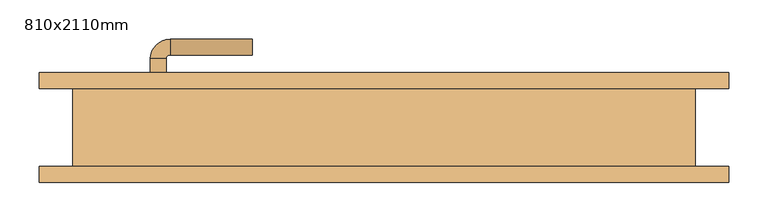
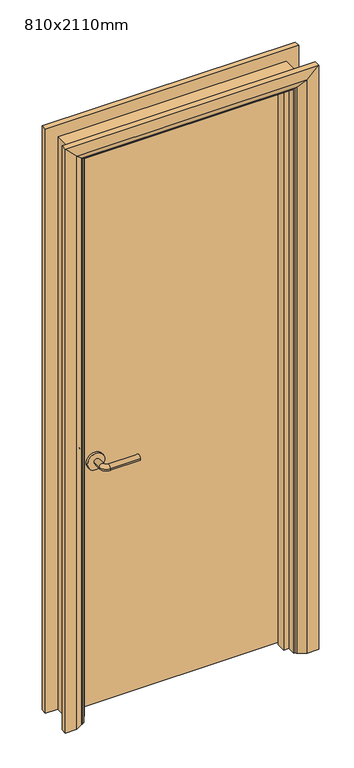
"""IFC4 building model written with IfcOpenShell, lengths in millimetres: door geometry, BIMHealth-Single_Door_841mm_Wide-LOD2A-v1 : 810x2110mm."""

from ifc_helpers import new_model, si_unit, point, frame, frame_2d, origin, place, context, project, spatial, polyline, circle_curve, ellipse_curve, trimmed, segment, composite_curve, outline, extrude, faceted_brep, source, transform, mapped, element, save
from ifc_brep_helpers import plane_surface, cylinder_surface, revolved_surface, advanced_brep


def door_810x2110mm_af5921ef(model_context):
    return source(origin(), model_context, "Body", "SolidModel", [
        advanced_brep(
        [(-298.0, 4.0, 900.0), (-278.0, 4.0, 900.0), (-278.0, -26.0, 900.0), (-298.0, -26.0, 900.0), (-273.0, -31.0, 900.0), (-273.0, -51.0, 900.0), (-168.0, -51.0, 900.0), (-168.0, -31.0, 900.0)],
        [
            (0, 1, circle_curve(frame((-288.0, 4.0, 900.0), z_axis=(0.0, 1.0, 0.0), x_axis=(1.0, 0.0, 0.0)), 10.0)),
            (1, 0, circle_curve(frame((-288.0, 4.0, 900.0), z_axis=(0.0, 1.0, 0.0), x_axis=(1.0, 0.0, 0.0)), 10.0)),
            (1, 2),
            (2, 3, circle_curve(frame((-288.0, -26.0, 900.0), z_axis=(0.0, 1.0, 0.0), x_axis=(1.0, 0.0, 0.0)), 10.0)),
            (3, 0),
            (3, 2, circle_curve(frame((-288.0, -26.0, 900.0), z_axis=(0.0, 1.0, 0.0), x_axis=(1.0, 0.0, 0.0)), 10.0)),
            (4, 5, circle_curve(frame((-273.0, -41.0, 900.0), z_axis=(-1.0, 0.0, 0.0), x_axis=(0.0, 1.0, 0.0)), 10.0)),
            (5, 3, circle_curve(frame((-273.0, -26.0, 900.0), z_axis=(0.0, 0.0, -1.0), x_axis=(-1.0, 0.0, 0.0)), 25.0)),
            (2, 4, circle_curve(frame((-273.0, -26.0, 900.0), z_axis=(0.0, 0.0, 1.0), x_axis=(-1.0, 0.0, 0.0)), 5.0)),
            (5, 4, circle_curve(frame((-273.0, -41.0, 900.0), z_axis=(-1.0, 0.0, 0.0), x_axis=(0.0, 1.0, 0.0)), 10.0)),
            (6, 7, circle_curve(frame((-168.0, -41.0, 900.0), z_axis=(1.0, 0.0, 0.0), x_axis=(0.0, 1.0, 0.0)), 10.0)),
            (7, 6, circle_curve(frame((-168.0, -41.0, 900.0), z_axis=(1.0, 0.0, 0.0), x_axis=(0.0, 1.0, 0.0)), 10.0)),
            (4, 7),
            (6, 5),
        ],
        [
            plane_surface(frame((-288.0, 4.0, 900.0), z_axis=(0.0, 1.0, 0.0), x_axis=(0.0, 0.0, 1.0))),
            cylinder_surface(frame((-288.0, 4.0, 900.0), z_axis=(0.0, 1.0, 0.0), x_axis=(1.0, 0.0, 0.0)), 10.0),
            revolved_surface(trimmed(ellipse_curve(frame((-288.0, -26.0, 900.0), z_axis=(0.0, -1.0, 0.0), x_axis=(1.0, 0.0, 0.0)), 10.0, 10.0), [point((-298.0, -26.0, 900.0))], [point((-278.0, -26.0, 900.0))], True, "CARTESIAN"), (-273.0, -26.0, 900.0), (0.0, 0.0, -1.0)),
            revolved_surface(trimmed(ellipse_curve(frame((-288.0, -26.0, 900.0), z_axis=(0.0, -1.0, 0.0), x_axis=(1.0, 0.0, 0.0)), 10.0, 10.0), [point((-278.0, -26.0, 900.0))], [point((-298.0, -26.0, 900.0))], True, "CARTESIAN"), (-273.0, -26.0, 900.0), (0.0, 0.0, -1.0)),
            plane_surface(frame((-168.0, -41.0, 900.0), z_axis=(1.0, 0.0, 0.0), x_axis=(0.0, 0.0, 1.0))),
            cylinder_surface(frame((-273.0, -41.0, 900.0), z_axis=(-1.0, 0.0, 0.0), x_axis=(0.0, 1.0, 0.0)), 10.0),
        ],
        [
            (0, [[1, 2]]),
            (1, [[3, 4, 5, -2]]),
            (1, [[-5, 6, -3, -1]]),
            (2, [[7, 8, -4, 9]]),
            (3, [[10, -9, -6, -8]]),
            (4, [[11, 12]]),
            (5, [[13, -11, 14, -7]]),
            (5, [[-14, -12, -13, -10]]),
        ],
    ),
        extrude(outline(composite_curve([segment(trimmed(circle_curve(frame_2d((900.0, -290.5)), 30.0), [point((900.0, -320.5))], [point((900.0, -260.5))], False, "CARTESIAN"), True, "CONTINUOUS"), segment(trimmed(circle_curve(frame_2d((900.0, -290.5)), 30.0), [point((900.0, -260.5))], [point((900.0, -320.5))], False, "CARTESIAN"), True, "CONTINUOUS")], self_intersect=False)), frame((0.0, 4.0, 0.0), z_axis=(0.0, 1.0, 0.0), x_axis=(0.0, 0.0, 1.0)), (0.0, 0.0, 1.0), 8.0),
        advanced_brep(
        [(-298.0, 58.0, 900.0), (-278.0, 58.0, 900.0), (-298.0, 88.0, 900.0), (-278.0, 88.0, 900.0), (-273.0, 93.0, 900.0), (-273.0, 113.0, 900.0), (-168.0, 113.0, 900.0), (-168.0, 93.0, 900.0)],
        [
            (0, 1, circle_curve(frame((-288.0, 58.0, 900.0), z_axis=(0.0, -1.0, 0.0), x_axis=(1.0, 0.0, 0.0)), 10.0)),
            (1, 0, circle_curve(frame((-288.0, 58.0, 900.0), z_axis=(0.0, -1.0, 0.0), x_axis=(1.0, 0.0, 0.0)), 10.0)),
            (0, 2),
            (2, 3, circle_curve(frame((-288.0, 88.0, 900.0), z_axis=(0.0, -1.0, 0.0), x_axis=(1.0, 0.0, 0.0)), 10.0)),
            (3, 1),
            (3, 2, circle_curve(frame((-288.0, 88.0, 900.0), z_axis=(0.0, -1.0, 0.0), x_axis=(1.0, 0.0, 0.0)), 10.0)),
            (4, 3, circle_curve(frame((-273.0, 88.0, 900.0), z_axis=(0.0, 0.0, 1.0), x_axis=(-1.0, 0.0, 0.0)), 5.0)),
            (2, 5, circle_curve(frame((-273.0, 88.0, 900.0), z_axis=(0.0, 0.0, -1.0), x_axis=(-1.0, 0.0, 0.0)), 25.0)),
            (5, 4, circle_curve(frame((-273.0, 103.0, 900.0), z_axis=(-1.0, 0.0, 0.0), x_axis=(0.0, -1.0, 0.0)), 10.0)),
            (4, 5, circle_curve(frame((-273.0, 103.0, 900.0), z_axis=(-1.0, 0.0, 0.0), x_axis=(0.0, -1.0, 0.0)), 10.0)),
            (6, 7, circle_curve(frame((-168.0, 103.0, 900.0), z_axis=(1.0, 0.0, 0.0), x_axis=(0.0, -1.0, 0.0)), 10.0)),
            (7, 6, circle_curve(frame((-168.0, 103.0, 900.0), z_axis=(1.0, 0.0, 0.0), x_axis=(0.0, -1.0, 0.0)), 10.0)),
            (5, 6),
            (7, 4),
        ],
        [
            plane_surface(frame((-288.0, 58.0, 900.0), z_axis=(0.0, -1.0, 0.0), x_axis=(0.0, 0.0, 1.0))),
            cylinder_surface(frame((-288.0, 58.0, 900.0), z_axis=(0.0, -1.0, 0.0), x_axis=(1.0, 0.0, 0.0)), 10.0),
            revolved_surface(trimmed(ellipse_curve(frame((-288.0, 88.0, 900.0), z_axis=(0.0, -1.0, 0.0), x_axis=(1.0, 0.0, 0.0)), 10.0, 10.0), [point((-298.0, 88.0, 900.0))], [point((-278.0, 88.0, 900.0))], True, "CARTESIAN"), (-273.0, 88.0, 900.0), (0.0, 0.0, -1.0)),
            revolved_surface(trimmed(ellipse_curve(frame((-288.0, 88.0, 900.0), z_axis=(0.0, -1.0, 0.0), x_axis=(1.0, 0.0, 0.0)), 10.0, 10.0), [point((-278.0, 88.0, 900.0))], [point((-298.0, 88.0, 900.0))], True, "CARTESIAN"), (-273.0, 88.0, 900.0), (0.0, 0.0, -1.0)),
            plane_surface(frame((-168.0, 103.0, 900.0), z_axis=(1.0, 0.0, 0.0), x_axis=(0.0, 0.0, 1.0))),
            cylinder_surface(frame((-273.0, 103.0, 900.0), z_axis=(-1.0, 0.0, 0.0), x_axis=(0.0, -1.0, 0.0)), 10.0),
        ],
        [
            (0, [[1, 2]]),
            (1, [[-1, 3, 4, 5]]),
            (1, [[-2, -5, 6, -3]]),
            (2, [[7, -4, 8, 9]]),
            (3, [[-8, -6, -7, 10]]),
            (4, [[11, 12]]),
            (5, [[-9, 13, -12, 14]]),
            (5, [[-10, -14, -11, -13]]),
        ],
    ),
        extrude(outline(composite_curve([segment(trimmed(circle_curve(frame_2d((900.0, -290.5)), 30.0), [point((900.0, -320.5))], [point((900.0, -260.5))], False, "CARTESIAN"), True, "CONTINUOUS"), segment(trimmed(circle_curve(frame_2d((900.0, -290.5)), 30.0), [point((900.0, -260.5))], [point((900.0, -320.5))], False, "CARTESIAN"), True, "CONTINUOUS")], self_intersect=False)), frame((0.0, 50.0, 0.0), z_axis=(0.0, 1.0, 0.0), x_axis=(0.0, 0.0, 1.0)), (0.0, 0.0, 1.0), 8.0),
        extrude(outline(polyline([(363.0, 12.0), (-363.0, 12.0), (-363.0, 50.0), (363.0, 50.0), (363.0, 12.0)])), frame((0.0, 0.0, 8.0), z_axis=(0.0, 0.0, 1.0), x_axis=(1.0, 0.0, 0.0)), (0.0, 0.0, 1.0), 2060.0),
        advanced_brep(
        [(440.0, 70.0, 0.0), (440.0, 50.0, 0.0), (370.0, 50.0, 0.0), (374.0, 56.0, 0.0), (400.0, 70.0, 0.0), (440.0, 70.0, 2145.0), (440.0, 50.0, 2145.0), (-440.0, 50.0, 2145.0), (-440.0, 50.0, 0.0), (-370.0, 50.0, 0.0), (-370.0, 50.0, 2075.0), (370.0, 50.0, 2075.0), (374.0, 56.0, 2079.0), (400.0, 70.0, 2105.0), (-400.0, 70.0, 2105.0), (-400.0, 70.0, 0.0), (-440.0, 70.0, 0.0), (-440.0, 70.0, 2145.0), (-374.0, 56.0, 0.0), (-374.0, 56.0, 2079.0)],
        [
            (0, 1),
            (1, 2),
            (2, 3, circle_curve(frame((378.0, 49.0, 0.0), z_axis=(0.0, 0.0, -1.0), x_axis=(1.0, 0.0, 0.0)), 8.0622577)),
            (3, 4),
            (4, 0),
            (0, 5),
            (5, 6),
            (6, 1),
            (6, 7),
            (7, 8),
            (8, 9),
            (9, 10),
            (10, 11),
            (11, 2),
            (11, 12, ellipse_curve(frame((378.0, 49.0, 2083.0), z_axis=(0.7071067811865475, 0.0, -0.7071067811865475), x_axis=(-0.7071067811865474, 0.0, -0.7071067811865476)), 11.4017543, 8.0622577)),
            (12, 3),
            (12, 13),
            (13, 4),
            (13, 14),
            (14, 15),
            (15, 16),
            (16, 17),
            (17, 5),
            (7, 17),
            (16, 8),
            (15, 18),
            (18, 9, circle_curve(frame((-378.0, 49.0, 0.0), z_axis=(0.0, 0.0, -1.0), x_axis=(-1.0, 0.0, 0.0)), 8.0622577)),
            (19, 10, ellipse_curve(frame((-378.0, 49.0, 2083.0), z_axis=(-0.7071067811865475, 0.0, -0.7071067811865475), x_axis=(-0.7071067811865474, 0.0, 0.7071067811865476)), 11.4017543, 8.0622577)),
            (18, 19),
            (14, 19),
            (19, 12),
        ],
        [
            plane_surface(frame((370.0, 50.0, 0.0), z_axis=(0.0, 0.0, -1.0), x_axis=(0.0, -1.0, 0.0))),
            plane_surface(frame((440.0, 70.0, 0.0), z_axis=(1.0, 0.0, 0.0), x_axis=(0.0, 0.0, 1.0))),
            plane_surface(frame((440.0, 50.0, 0.0), z_axis=(0.0, -1.0, 0.0), x_axis=(0.0, 0.0, 1.0))),
            cylinder_surface(frame((378.0, 49.0, 0.0), z_axis=(0.0, 0.0, -1.0), x_axis=(1.0, 0.0, 0.0)), 8.0622577),
            plane_surface(frame((374.0, 56.0, 0.0), z_axis=(-0.4740998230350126, 0.880471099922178, 0.0), x_axis=(0.0, 0.0, 1.0))),
            plane_surface(frame((400.0, 70.0, 0.0), z_axis=(0.0, 1.0, 0.0), x_axis=(0.0, 0.0, 1.0))),
            plane_surface(frame((-440.0, 70.0, 2145.0), z_axis=(-1.0, 0.0, 0.0), x_axis=(0.0, 0.0, -1.0))),
            plane_surface(frame((-370.0, 50.0, 0.0), z_axis=(0.0, 0.0, -1.0), x_axis=(0.0, -1.0, 0.0))),
            cylinder_surface(frame((-378.0, 49.0, 2075.0), z_axis=(0.0, 0.0, 1.0), x_axis=(-1.0, 0.0, 0.0)), 8.0622577),
            plane_surface(frame((-374.0, 56.0, 2079.0), z_axis=(0.47409982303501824, 0.8804710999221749, 0.0), x_axis=(0.0, 0.0, -1.0))),
            plane_surface(frame((440.0, 70.0, 2145.0), z_axis=(0.0, 0.0, 1.0), x_axis=(-1.0, 0.0, 0.0))),
            cylinder_surface(frame((370.0, 49.0, 2083.0), z_axis=(1.0, 0.0, 0.0), x_axis=(0.0, 0.0, 1.0)), 8.0622577),
            plane_surface(frame((374.0, 56.0, 2079.0), z_axis=(0.0, 0.8804710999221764, -0.4740998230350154), x_axis=(-1.0, 0.0, 0.0))),
        ],
        [
            (0, [[1, 2, 3, 4, 5]]),
            (1, [[-1, 6, 7, 8]]),
            (2, [[-2, -8, 9, 10, 11, 12, 13, 14]]),
            (3, [[-3, -14, 15, 16]]),
            (4, [[-4, -16, 17, 18]]),
            (5, [[-5, -18, 19, 20, 21, 22, 23, -6]]),
            (6, [[24, -22, 25, -10]]),
            (7, [[-21, 26, 27, -11, -25]]),
            (8, [[28, -12, -27, 29]]),
            (9, [[30, -29, -26, -20]]),
            (10, [[-7, -23, -24, -9]]),
            (11, [[-15, -13, -28, 31]]),
            (12, [[-17, -31, -30, -19]]),
        ],
    ),
        extrude(outline(polyline([(0.0, -365.0), (0.0, -346.0), (2051.0, -346.0), (2051.0, 346.0), (0.0, 346.0), (0.0, 365.0), (2070.0, 365.0), (2070.0, -365.0), (0.0, -365.0)])), frame((0.0, -22.0, 0.0), z_axis=(0.0, 1.0, 0.0), x_axis=(0.0, 0.0, 1.0)), (0.0, 0.0, 1.0), 32.0),
        advanced_brep(
        [(-440.0, -70.0, 0.0), (-440.0, -50.0, 0.0), (-370.0, -50.0, 0.0), (-374.0, -56.0, 0.0), (-400.0, -70.0, 0.0), (-440.0, -70.0, 2145.0), (-440.0, -50.0, 2145.0), (-370.0, -50.0, 2075.0), (-374.0, -56.0, 2079.0), (-400.0, -70.0, 2105.0), (440.0, -70.0, 0.0), (400.0, -70.0, 0.0), (374.0, -56.0, 0.0), (370.0, -50.0, 0.0), (440.0, -50.0, 0.0), (440.0, -70.0, 2145.0), (400.0, -70.0, 2105.0), (374.0, -56.0, 2079.0), (370.0, -50.0, 2075.0), (440.0, -50.0, 2145.0)],
        [
            (0, 1),
            (1, 2),
            (2, 3, circle_curve(frame((-378.0, -49.0, 0.0), z_axis=(0.0, 0.0, -1.0), x_axis=(-1.0, 0.0, 0.0)), 8.0622577)),
            (3, 4),
            (4, 0),
            (0, 5),
            (5, 6),
            (6, 1),
            (6, 7),
            (7, 2),
            (7, 8, ellipse_curve(frame((-378.0, -49.0, 2083.0), z_axis=(-0.7071067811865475, 0.0, -0.7071067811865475), x_axis=(0.7071067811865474, 0.0, -0.7071067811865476)), 11.4017543, 8.0622577)),
            (8, 3),
            (8, 9),
            (9, 4),
            (9, 5),
            (10, 11),
            (11, 12),
            (12, 13, circle_curve(frame((378.0, -49.0, 0.0), z_axis=(0.0, 0.0, -1.0), x_axis=(1.0, 0.0, 0.0)), 8.0622577)),
            (13, 14),
            (14, 10),
            (15, 16),
            (16, 11),
            (10, 15),
            (16, 17),
            (17, 12),
            (17, 18, ellipse_curve(frame((378.0, -49.0, 2083.0), z_axis=(0.7071067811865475, 0.0, -0.7071067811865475), x_axis=(0.7071067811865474, 0.0, 0.7071067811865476)), 11.4017543, 8.0622577)),
            (18, 13),
            (18, 19),
            (19, 14),
            (19, 15),
            (5, 15),
            (19, 6),
            (18, 7),
            (17, 8),
            (16, 9),
        ],
        [
            plane_surface(frame((-370.0, -122.8010989, 0.0), z_axis=(0.0, 0.0, -1.0), x_axis=(1.0, 0.0, 0.0))),
            plane_surface(frame((-440.0, -70.0, 0.0), z_axis=(-1.0, 0.0, 0.0), x_axis=(0.0, 0.0, 1.0))),
            plane_surface(frame((-440.0, -50.0, 0.0), z_axis=(0.0, 1.0, 0.0), x_axis=(0.0, 0.0, 1.0))),
            cylinder_surface(frame((-378.0, -49.0, 0.0), z_axis=(0.0, 0.0, -1.0), x_axis=(-1.0, 0.0, 0.0)), 8.0622577),
            plane_surface(frame((-374.0, -56.0, 0.0), z_axis=(0.4740998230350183, -0.8804710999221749, 0.0), x_axis=(0.0, 0.0, 1.0))),
            plane_surface(frame((-400.0, -70.0, 0.0), z_axis=(0.0, -1.0, 0.0), x_axis=(0.0, 0.0, 1.0))),
            plane_surface(frame((370.0, -122.8010989, 0.0), z_axis=(0.0, 0.0, -1.0), x_axis=(-1.0, 0.0, 0.0))),
            plane_surface(frame((400.0, -70.0, 2105.0), z_axis=(0.0, -1.0, 0.0), x_axis=(0.0, 0.0, -1.0))),
            plane_surface(frame((374.0, -56.0, 2079.0), z_axis=(-0.4740998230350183, -0.8804710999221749, 0.0), x_axis=(0.0, 0.0, -1.0))),
            cylinder_surface(frame((378.0, -49.0, 2075.0), z_axis=(0.0, 0.0, 1.0), x_axis=(1.0, 0.0, 0.0)), 8.0622577),
            plane_surface(frame((440.0, -50.0, 2145.0), z_axis=(0.0, 1.0, 0.0), x_axis=(0.0, 0.0, -1.0))),
            plane_surface(frame((440.0, -70.0, 2145.0), z_axis=(1.0, 0.0, 0.0), x_axis=(0.0, 0.0, -1.0))),
            plane_surface(frame((-440.0, -70.0, 2145.0), z_axis=(0.0, 0.0, 1.0), x_axis=(1.0, 0.0, 0.0))),
            plane_surface(frame((-440.0, -50.0, 2145.0), z_axis=(0.0, 1.0, 0.0), x_axis=(1.0, 0.0, 0.0))),
            cylinder_surface(frame((-370.0, -49.0, 2083.0), z_axis=(-1.0, 0.0, 0.0), x_axis=(0.0, 0.0, 1.0)), 8.0622577),
            plane_surface(frame((-374.0, -56.0, 2079.0), z_axis=(0.0, -0.8804710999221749, -0.4740998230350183), x_axis=(1.0, 0.0, 0.0))),
            plane_surface(frame((-400.0, -70.0, 2105.0), z_axis=(0.0, -1.0, 0.0), x_axis=(1.0, 0.0, 0.0))),
        ],
        [
            (0, [[1, 2, 3, 4, 5]]),
            (1, [[-1, 6, 7, 8]]),
            (2, [[-2, -8, 9, 10]]),
            (3, [[-3, -10, 11, 12]]),
            (4, [[-4, -12, 13, 14]]),
            (5, [[-5, -14, 15, -6]]),
            (6, [[16, 17, 18, 19, 20]]),
            (7, [[21, 22, -16, 23]]),
            (8, [[24, 25, -17, -22]]),
            (9, [[26, 27, -18, -25]]),
            (10, [[28, 29, -19, -27]]),
            (11, [[30, -23, -20, -29]]),
            (12, [[-7, 31, -30, 32]]),
            (13, [[-9, -32, -28, 33]]),
            (14, [[-11, -33, -26, 34]]),
            (15, [[-13, -34, -24, 35]]),
            (16, [[-15, -35, -21, -31]]),
        ],
    ),
        faceted_brep([(-365.0, 50.0, 0.0), (-365.0, -50.0, 0.0), (-397.0, -50.0, 0.0), (-397.0, 50.0, 0.0), (-365.0, 50.0, 2070.0), (-365.0, -50.0, 2070.0), (-397.0, -50.0, 2102.0), (-397.0, 50.0, 2102.0), (365.0, 50.0, 0.0), (397.0, 50.0, 0.0), (397.0, -50.0, 0.0), (365.0, -50.0, 0.0), (365.0, 50.0, 2070.0), (397.0, 50.0, 2102.0), (397.0, -50.0, 2102.0), (365.0, -50.0, 2070.0)], [[[0, 1, 2, 3]], [[1, 0, 4, 5]], [[2, 1, 5, 6]], [[3, 2, 6, 7]], [[0, 3, 7, 4]], [[8, 9, 10, 11]], [[12, 13, 9, 8]], [[13, 14, 10, 9]], [[14, 15, 11, 10]], [[15, 12, 8, 11]], [[5, 4, 12, 15]], [[6, 5, 15, 14]], [[7, 6, 14, 13]], [[4, 7, 13, 12]]]),
    ])


if __name__ == "__main__":
    model = new_model("IFC4")
    model_context = context("Model", 3, world=origin())
    ifc_project = project(units=[si_unit("LENGTHUNIT", "METRE", prefix="MILLI")], contexts=[model_context])
    site = spatial("IfcSite", under=ifc_project)
    building = spatial("IfcBuilding", under=site)
    placement = place(None, origin())
    door_810x2110mm_shape = door_810x2110mm_af5921ef(model_context)
    element("IfcDoor", 1, ObjectType="BIMHealth-Single_Door_841mm_Wide-LOD2A-v1 : 810x2110mm", at=placement, inside=building, context=model_context, shape_type="MappedRepresentation", body=[
        mapped(door_810x2110mm_shape, transform((0.0, 0.0, 0.0), x_axis=(1.0, 0.0, 0.0), y_axis=(0.0, 1.0, 0.0), z_axis=(0.0, 0.0, 1.0))),
    ])
    save(model, "model.ifc")
